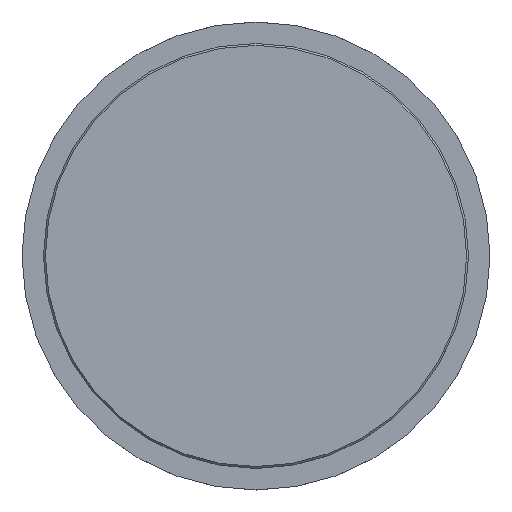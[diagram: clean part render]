
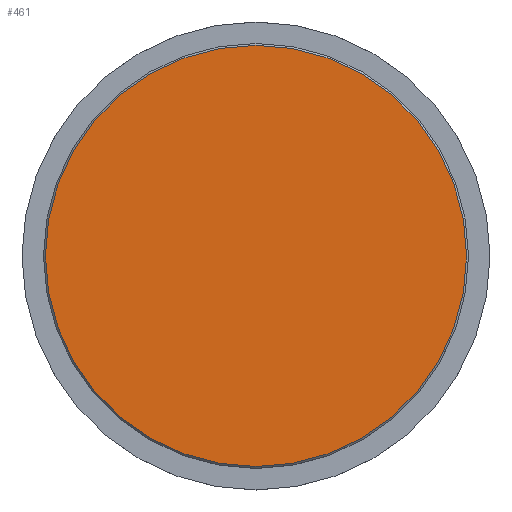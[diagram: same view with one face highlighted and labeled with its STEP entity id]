
A CAD part, top view. The second image highlights one B-rep face of the part: STEP entity #461.
In plain terms, the highlighted planar face has unit normal (0, 0, 1).
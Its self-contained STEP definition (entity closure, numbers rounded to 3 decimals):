
#461=ADVANCED_FACE('',(#528),#509,.T.);
#509=PLANE('',#1254);
#528=FACE_OUTER_BOUND('',#546,.T.);
#546=EDGE_LOOP('',(#634));
#634=ORIENTED_EDGE('',*,*,#1066,.T.);
#928=VERTEX_POINT('',#1580);
#1066=EDGE_CURVE('',#928,#928,#1213,.T.);
#1213=CIRCLE('',#1253,11.25);
#1253=AXIS2_PLACEMENT_3D('',#1579,#1342,#1343);
#1254=AXIS2_PLACEMENT_3D('',#1581,#1344,#1345);
#1342=DIRECTION('',(0.,0.,1.));
#1343=DIRECTION('',(1.,0.,0.));
#1344=DIRECTION('',(0.,0.,1.));
#1345=DIRECTION('',(1.,0.,0.));
#1579=CARTESIAN_POINT('',(0.,0.,0.3));
#1580=CARTESIAN_POINT('',(11.25,0.,0.3));
#1581=CARTESIAN_POINT('',(0.,0.,0.3));
